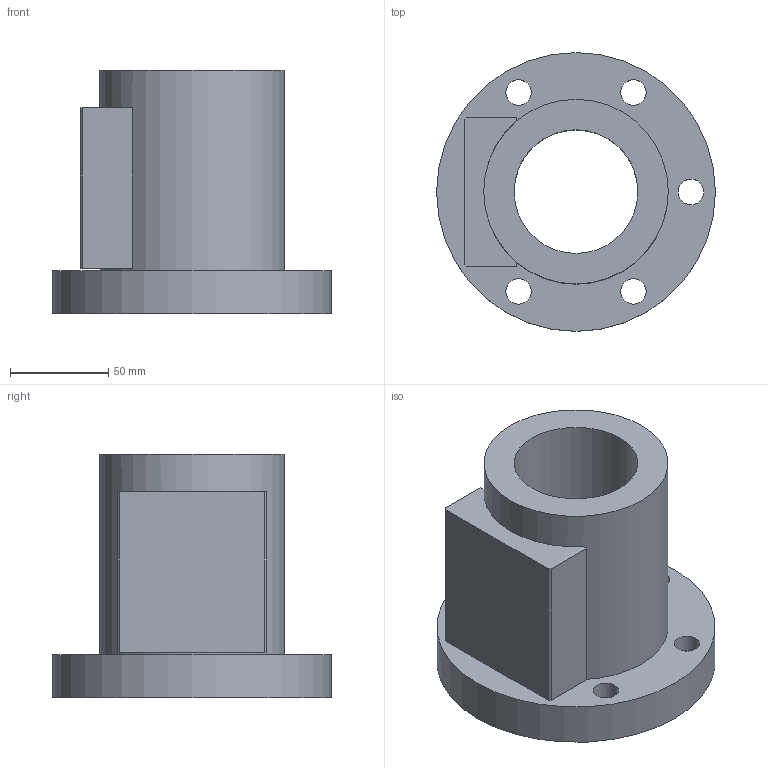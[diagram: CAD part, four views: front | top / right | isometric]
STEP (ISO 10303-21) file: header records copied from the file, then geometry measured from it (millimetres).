
FILE_DESCRIPTION(/* description */ (''),/* implementation_level */ '2;1');
FILE_NAME(/* name */ '63-12B2',/* time_stamp */ '2006-07-31T11:57:47+08:00',/* author */ (''),/* organization */ (''),/* preprocessor_version */ 'ST-DEVELOPER v9',/* originating_system */ 'UGS - NX 4.0',/* authorisation */ '');
FILE_SCHEMA (('CONFIG_CONTROL_DESIGN'));
Length unit declared in the file: millimetre
Products named in the file (1): 63-12B2
Bounding box: 142 x 142 x 124 mm (x, y, z)
Volume: 741221.5 mm3; surface area: 101084.1 mm2
Topology: 1 solids, 1 shells, 30 faces, 67 edges, 46 vertices
Faces by surface type: plane 17, cylinder 13
Full cylindrical faces by diameter (mm): 13 x5, 20 x5, 63 x1, 94 x1, 142 x1
Entity records: 860 total; most frequent: DIRECTION 140, CARTESIAN_POINT 123, ORIENTED_EDGE 100, EDGE_LOOP 62, AXIS2_PLACEMENT_3D 59, EDGE_CURVE 50, FACE_BOUND 45, VERTEX_POINT 42
